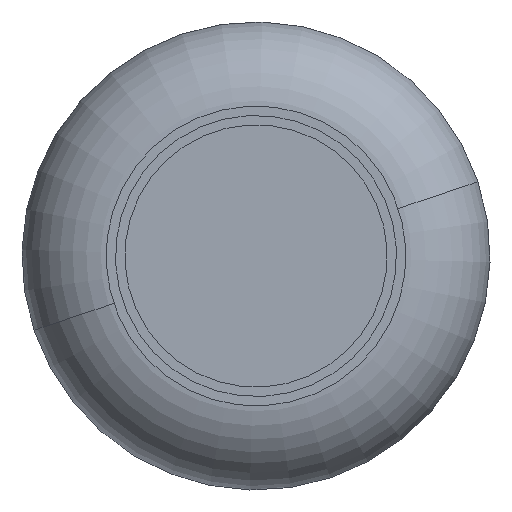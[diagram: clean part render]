
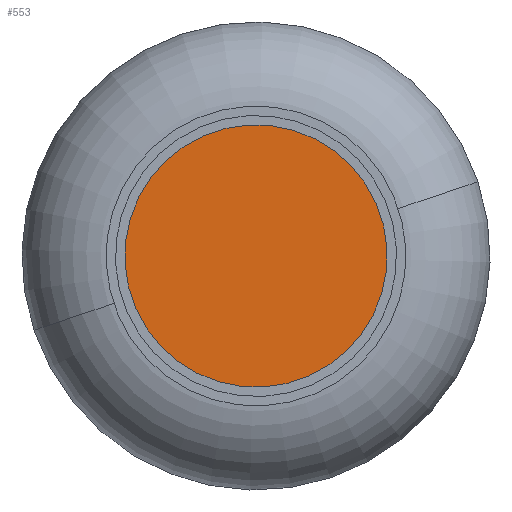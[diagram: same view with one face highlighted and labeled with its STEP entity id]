
A CAD part, front view. The second image highlights one B-rep face of the part: STEP entity #553.
In plain terms, the highlighted planar face has unit normal (0, -1, 0).
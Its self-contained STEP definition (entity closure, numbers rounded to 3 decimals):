
#25 = EDGE_CURVE ( 'NONE', #1102, #700, #434, .T. ) ;
#238 = EDGE_CURVE ( 'NONE', #700, #1102, #603, .T. ) ;
#308 = AXIS2_PLACEMENT_3D ( 'NONE', #655, #601, #1038 ) ;
#434 = CIRCLE ( 'NONE', #308, 7. ) ;
#524 = CARTESIAN_POINT ( 'NONE',  ( 0., 0., 0. ) ) ;
#542 = CARTESIAN_POINT ( 'NONE',  ( 3.153, 0., 6.25 ) ) ;
#553 = ADVANCED_FACE ( 'NONE', ( #1184 ), #640, .T. ) ;
#579 = ORIENTED_EDGE ( 'NONE', *, *, #238, .T. ) ;
#601 = DIRECTION ( 'NONE',  ( 0., -1., 0. ) ) ;
#603 = CIRCLE ( 'NONE', #823, 7. ) ;
#621 = DIRECTION ( 'NONE',  ( 0., -1., 0. ) ) ;
#631 = CARTESIAN_POINT ( 'NONE',  ( 0., 0., 0. ) ) ;
#640 = PLANE ( 'NONE',  #768 ) ;
#655 = CARTESIAN_POINT ( 'NONE',  ( 0., 0., 0. ) ) ;
#687 = DIRECTION ( 'NONE',  ( -0.45, 0., -0.893 ) ) ;
#700 = VERTEX_POINT ( 'NONE', #1240 ) ;
#768 = AXIS2_PLACEMENT_3D ( 'NONE', #631, #621, #687 ) ;
#805 = ORIENTED_EDGE ( 'NONE', *, *, #25, .T. ) ;
#823 = AXIS2_PLACEMENT_3D ( 'NONE', #524, #1265, #975 ) ;
#975 = DIRECTION ( 'NONE',  ( -0.45, 0., -0.893 ) ) ;
#1038 = DIRECTION ( 'NONE',  ( -0.45, 0., -0.893 ) ) ;
#1102 = VERTEX_POINT ( 'NONE', #542 ) ;
#1184 = FACE_OUTER_BOUND ( 'NONE', #1193, .T. ) ;
#1193 = EDGE_LOOP ( 'NONE', ( #579, #805 ) ) ;
#1240 = CARTESIAN_POINT ( 'NONE',  ( -3.153, 0., -6.25 ) ) ;
#1265 = DIRECTION ( 'NONE',  ( 0., -1., 0. ) ) ;
